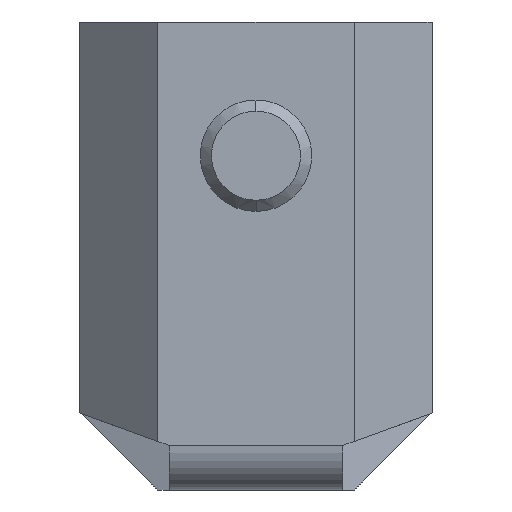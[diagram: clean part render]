
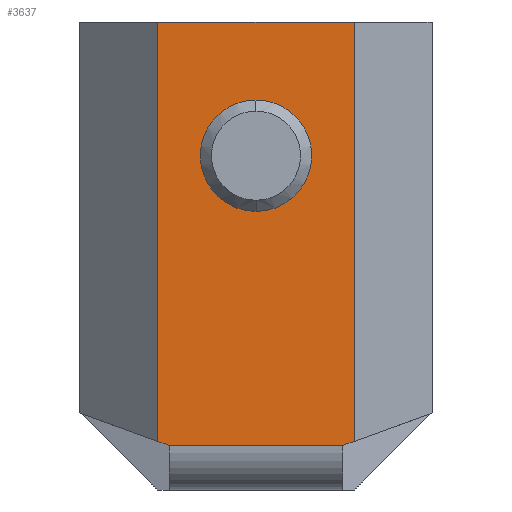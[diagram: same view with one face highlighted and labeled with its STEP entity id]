
A CAD part, front view. The second image highlights one B-rep face of the part: STEP entity #3637.
In plain terms, the highlighted planar face has unit normal (0, -1, 0).
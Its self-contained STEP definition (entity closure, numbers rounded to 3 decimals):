
#4 = PLANE ( 'NONE',  #4203 ) ;
#33 = DIRECTION ( 'NONE',  ( 0., 0., 1. ) ) ;
#45 = CIRCLE ( 'NONE', #1464, 2.5 ) ;
#178 = ORIENTED_EDGE ( 'NONE', *, *, #2743, .F. ) ;
#214 = EDGE_CURVE ( 'NONE', #3560, #556, #1723, .T. ) ;
#241 = CIRCLE ( 'NONE', #3257, 2.5 ) ;
#395 = VECTOR ( 'NONE', #2857, 1000. ) ;
#417 = VERTEX_POINT ( 'NONE', #509 ) ;
#441 = CARTESIAN_POINT ( 'NONE',  ( 0., 0., 17.5 ) ) ;
#509 = CARTESIAN_POINT ( 'NONE',  ( 3.9, 0., 2. ) ) ;
#556 = VERTEX_POINT ( 'NONE', #3721 ) ;
#590 = EDGE_LOOP ( 'NONE', ( #3038, #178, #4112, #750, #3100, #3861 ) ) ;
#651 = FACE_BOUND ( 'NONE', #3715, .T. ) ;
#692 = CARTESIAN_POINT ( 'NONE',  ( 0., 0., 12.5 ) ) ;
#731 = CARTESIAN_POINT ( 'NONE',  ( 0., 0., 15. ) ) ;
#741 = DIRECTION ( 'NONE',  ( 0.94, 0., -0.342 ) ) ;
#746 = CARTESIAN_POINT ( 'NONE',  ( -7.9, 0., 3.456 ) ) ;
#750 = ORIENTED_EDGE ( 'NONE', *, *, #4178, .F. ) ;
#836 = CARTESIAN_POINT ( 'NONE',  ( 7.9, 0., 3.456 ) ) ;
#954 = VECTOR ( 'NONE', #1829, 1000. ) ;
#983 = EDGE_CURVE ( 'NONE', #4344, #556, #1795, .T. ) ;
#1049 = DIRECTION ( 'NONE',  ( 0., 0., 1. ) ) ;
#1104 = CARTESIAN_POINT ( 'NONE',  ( 4.4, 0., 21. ) ) ;
#1443 = EDGE_CURVE ( 'NONE', #1925, #3766, #241, .T. ) ;
#1453 = LINE ( 'NONE', #3703, #4053 ) ;
#1464 = AXIS2_PLACEMENT_3D ( 'NONE', #731, #3074, #1049 ) ;
#1524 = FACE_OUTER_BOUND ( 'NONE', #590, .T. ) ;
#1554 = VECTOR ( 'NONE', #2286, 1000. ) ;
#1665 = DIRECTION ( 'NONE',  ( 0., 0., -1. ) ) ;
#1723 = LINE ( 'NONE', #2549, #1554 ) ;
#1795 = LINE ( 'NONE', #2123, #1906 ) ;
#1829 = DIRECTION ( 'NONE',  ( 0.94, 0., 0.342 ) ) ;
#1906 = VECTOR ( 'NONE', #2072, 1000. ) ;
#1918 = DIRECTION ( 'NONE',  ( 0., 0., 1. ) ) ;
#1925 = VERTEX_POINT ( 'NONE', #692 ) ;
#1933 = DIRECTION ( 'NONE',  ( 0., -1., 0. ) ) ;
#1949 = CARTESIAN_POINT ( 'NONE',  ( 0., 0., 15. ) ) ;
#2062 = DIRECTION ( 'NONE',  ( 0., 1., 0. ) ) ;
#2072 = DIRECTION ( 'NONE',  ( 0., 0., 1. ) ) ;
#2123 = CARTESIAN_POINT ( 'NONE',  ( -4.4, 0., 21. ) ) ;
#2197 = LINE ( 'NONE', #746, #3965 ) ;
#2199 = CARTESIAN_POINT ( 'NONE',  ( -4.4, 0., 2.182 ) ) ;
#2286 = DIRECTION ( 'NONE',  ( -1., 0., 0. ) ) ;
#2549 = CARTESIAN_POINT ( 'NONE',  ( 3.9, 0., 21. ) ) ;
#2628 = CARTESIAN_POINT ( 'NONE',  ( -3.9, 0., 2. ) ) ;
#2743 = EDGE_CURVE ( 'NONE', #417, #4031, #2969, .T. ) ;
#2819 = EDGE_CURVE ( 'NONE', #417, #4193, #3749, .T. ) ;
#2857 = DIRECTION ( 'NONE',  ( -1., 0., 0. ) ) ;
#2969 = LINE ( 'NONE', #3529, #395 ) ;
#3038 = ORIENTED_EDGE ( 'NONE', *, *, #3580, .T. ) ;
#3074 = DIRECTION ( 'NONE',  ( 0., -1., 0. ) ) ;
#3100 = ORIENTED_EDGE ( 'NONE', *, *, #214, .T. ) ;
#3257 = AXIS2_PLACEMENT_3D ( 'NONE', #1949, #1933, #1918 ) ;
#3506 = ORIENTED_EDGE ( 'NONE', *, *, #4265, .F. ) ;
#3529 = CARTESIAN_POINT ( 'NONE',  ( 3.9, 0., 2. ) ) ;
#3560 = VERTEX_POINT ( 'NONE', #1104 ) ;
#3580 = EDGE_CURVE ( 'NONE', #4344, #4031, #2197, .T. ) ;
#3637 = ADVANCED_FACE ( 'NONE', ( #1524, #651 ), #4, .F. ) ;
#3656 = ORIENTED_EDGE ( 'NONE', *, *, #1443, .F. ) ;
#3703 = CARTESIAN_POINT ( 'NONE',  ( 4.4, 0., 21. ) ) ;
#3715 = EDGE_LOOP ( 'NONE', ( #3506, #3656 ) ) ;
#3721 = CARTESIAN_POINT ( 'NONE',  ( -4.4, 0., 21. ) ) ;
#3749 = LINE ( 'NONE', #836, #954 ) ;
#3766 = VERTEX_POINT ( 'NONE', #441 ) ;
#3861 = ORIENTED_EDGE ( 'NONE', *, *, #983, .F. ) ;
#3965 = VECTOR ( 'NONE', #741, 1000. ) ;
#4031 = VERTEX_POINT ( 'NONE', #2628 ) ;
#4049 = CARTESIAN_POINT ( 'NONE',  ( 4.4, 0., 2.182 ) ) ;
#4053 = VECTOR ( 'NONE', #1665, 1000. ) ;
#4070 = CARTESIAN_POINT ( 'NONE',  ( 3.9, 0., 21. ) ) ;
#4112 = ORIENTED_EDGE ( 'NONE', *, *, #2819, .T. ) ;
#4178 = EDGE_CURVE ( 'NONE', #3560, #4193, #1453, .T. ) ;
#4193 = VERTEX_POINT ( 'NONE', #4049 ) ;
#4203 = AXIS2_PLACEMENT_3D ( 'NONE', #4070, #2062, #33 ) ;
#4265 = EDGE_CURVE ( 'NONE', #3766, #1925, #45, .T. ) ;
#4344 = VERTEX_POINT ( 'NONE', #2199 ) ;
